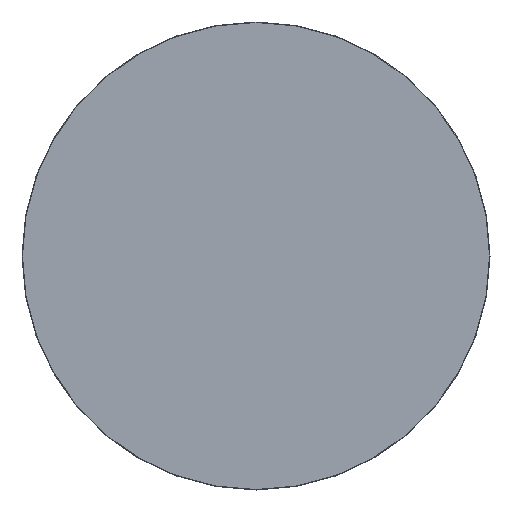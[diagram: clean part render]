
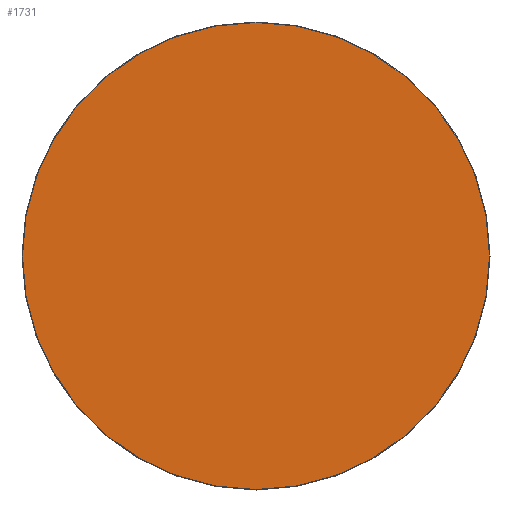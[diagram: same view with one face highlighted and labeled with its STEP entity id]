
A CAD part, left-side view. The second image highlights one B-rep face of the part: STEP entity #1731.
In plain terms, the highlighted planar face has unit normal (-1, 0, 0).
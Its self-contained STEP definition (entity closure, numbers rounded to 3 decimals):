
#68 = ORIENTED_EDGE ( 'NONE', *, *, #752, .T. ) ;
#276 = ORIENTED_EDGE ( 'NONE', *, *, #1034, .T. ) ;
#384 = CARTESIAN_POINT ( 'NONE',  ( 0., 0., 0. ) ) ;
#585 = PLANE ( 'NONE',  #1823 ) ;
#600 = AXIS2_PLACEMENT_3D ( 'NONE', #693, #2071, #2060 ) ;
#688 = CARTESIAN_POINT ( 'NONE',  ( 0., 0., -149.7 ) ) ;
#693 = CARTESIAN_POINT ( 'NONE',  ( 0., 0., 0. ) ) ;
#702 = VERTEX_POINT ( 'NONE', #688 ) ;
#752 = EDGE_CURVE ( 'NONE', #702, #2194, #1415, .T. ) ;
#769 = DIRECTION ( 'NONE',  ( 1., 0., 0. ) ) ;
#919 = DIRECTION ( 'NONE',  ( -1., 0., 0. ) ) ;
#1034 = EDGE_CURVE ( 'NONE', #2194, #702, #2187, .T. ) ;
#1133 = CARTESIAN_POINT ( 'NONE',  ( 0., 0., 149.7 ) ) ;
#1372 = EDGE_LOOP ( 'NONE', ( #68, #276 ) ) ;
#1415 = CIRCLE ( 'NONE', #2322, 149.7 ) ;
#1731 = ADVANCED_FACE ( 'NONE', ( #1862 ), #585, .F. ) ;
#1773 = DIRECTION ( 'NONE',  ( 0., 0., -1. ) ) ;
#1823 = AXIS2_PLACEMENT_3D ( 'NONE', #384, #769, #1773 ) ;
#1862 = FACE_OUTER_BOUND ( 'NONE', #1372, .T. ) ;
#2060 = DIRECTION ( 'NONE',  ( 0., 0., 1. ) ) ;
#2071 = DIRECTION ( 'NONE',  ( -1., 0., 0. ) ) ;
#2187 = CIRCLE ( 'NONE', #600, 149.7 ) ;
#2194 = VERTEX_POINT ( 'NONE', #1133 ) ;
#2294 = DIRECTION ( 'NONE',  ( 0., 0., 1. ) ) ;
#2322 = AXIS2_PLACEMENT_3D ( 'NONE', #2475, #919, #2294 ) ;
#2475 = CARTESIAN_POINT ( 'NONE',  ( 0., 0., 0. ) ) ;
